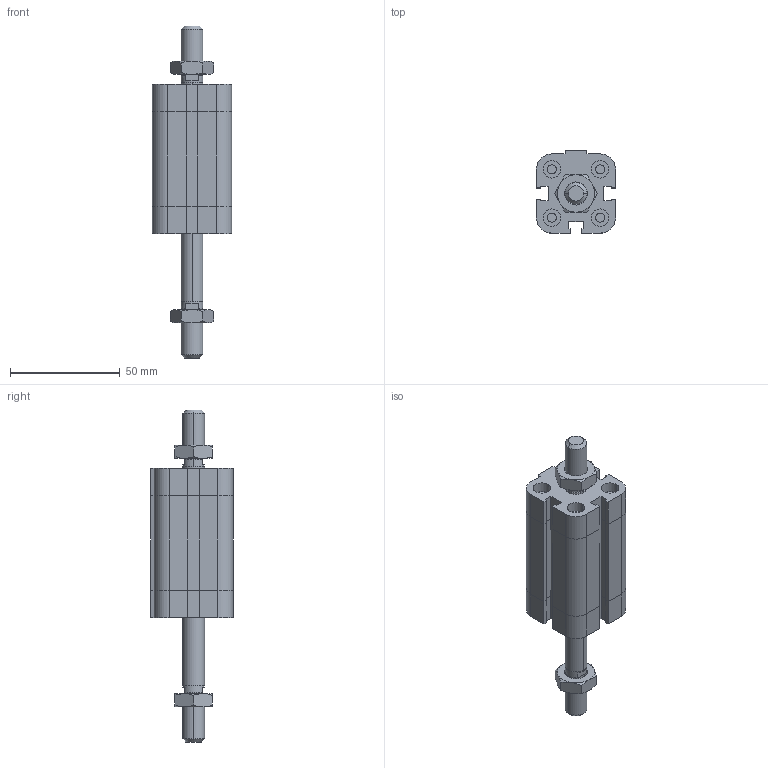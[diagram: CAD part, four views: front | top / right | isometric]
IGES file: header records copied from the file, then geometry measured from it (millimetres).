
Global section: file name: No Iges File Name specified; native system: Autodesk Inventor 2009; preprocessor: AutoDesk Inventor Iges Exporter R2009; author: maffial1; date: 20090420.200843; units: millimetre
Bounding box: 36 x 37.5 x 151 mm (x, y, z)
Volume: 84330.4 mm3; surface area: 25533.7 mm2
Topology: 4 solids, 4 shells, 260 faces, 574 edges, 342 vertices
Faces by surface type: plane 129, bspline 51, cone 38, cylinder 22, revolution 20
